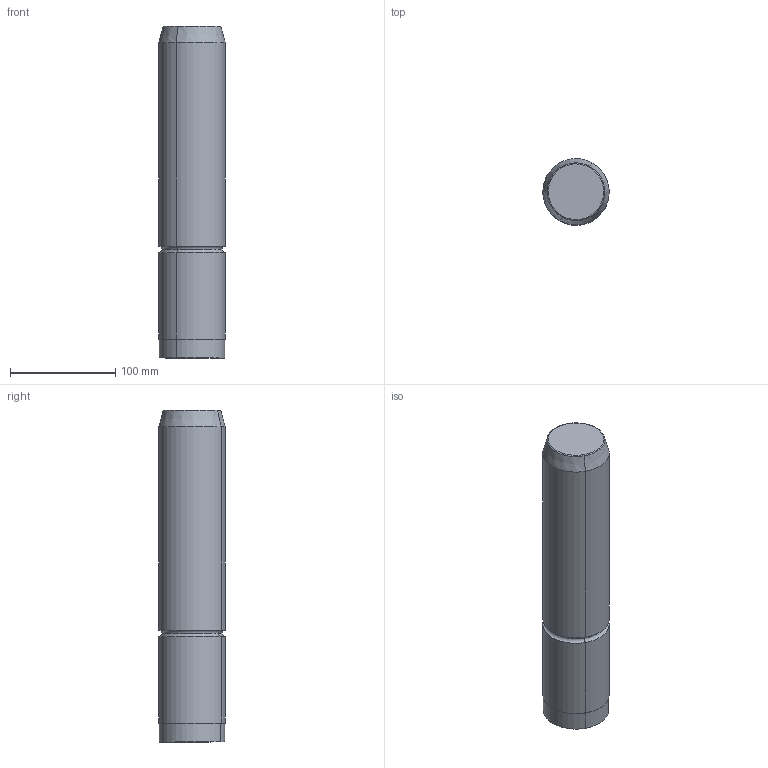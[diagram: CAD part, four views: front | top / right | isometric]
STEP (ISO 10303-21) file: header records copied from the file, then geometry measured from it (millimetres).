
FILE_DESCRIPTION(('CATIA V5 STEP Exchange'),'2;1');
FILE_NAME('C:\Users\Utente\Desktop\IO LAVORO\3D X SITO CF\X SITO\M104\M104-63x315.stp','2020-12-26T21:21:12+00:00',('none'),('none'),'CATIA Version 5 Release 20 GA (IN-10)','CATIA V5 STEP AP203','none');
FILE_SCHEMA(('CONFIG_CONTROL_DESIGN'));
Length unit declared in the file: millimetre
Products named in the file (1): M104-63x315
Bounding box: 62.98 x 62.98 x 315 mm (x, y, z)
Volume: 970802.8 mm3; surface area: 68161.5 mm2
Topology: 1 solids, 1 shells, 17 faces, 32 edges, 18 vertices
Faces by surface type: cylinder 6, torus 6, plane 3, cone 2
Entity records: 438 total; most frequent: CARTESIAN_POINT 66, ORIENTED_EDGE 64, DIRECTION 62, AXIS2_PLACEMENT_3D 40, EDGE_CURVE 32, CIRCLE 24, EDGE_LOOP 18, VERTEX_POINT 18
